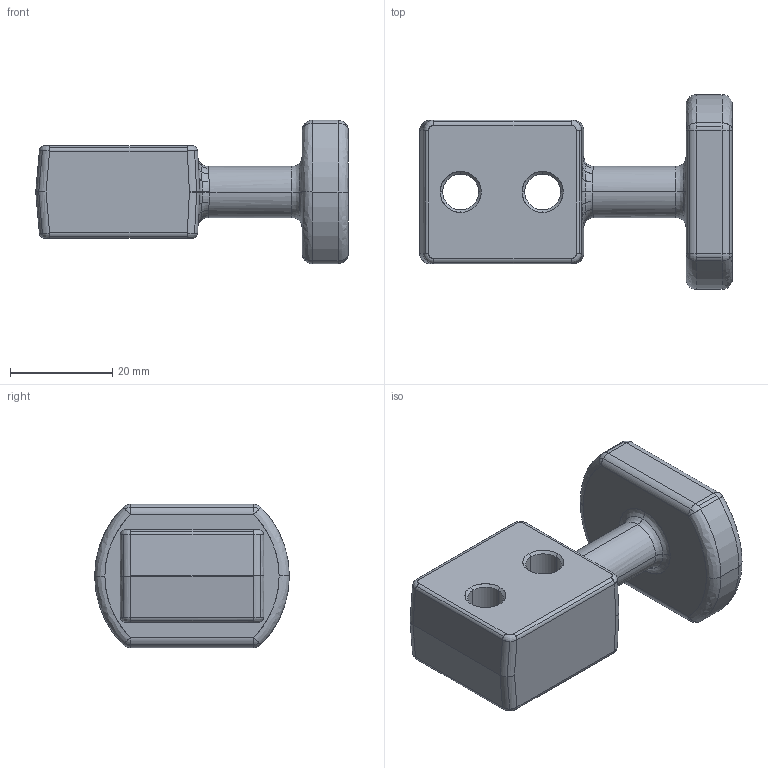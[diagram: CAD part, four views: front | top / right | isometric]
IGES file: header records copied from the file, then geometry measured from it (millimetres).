
Global section: file name: E:\UnigraphicsGraphicData\MISUMI_PRESS-PARTS\IGES\3d_chpl10_03561_r00.igs; native system: NX V5.0; preprocessor: UGS NX IGES V5.0; author: MISUMI; date: 20110105.160232; units: millimetre
Bounding box: 61 x 38 x 28 mm (x, y, z)
Surface area: 7482.9 mm2 (no closed solid volume)
Topology: 0 solids, 0 shells, 172 faces, 893 edges, 883 vertices
Faces by surface type: bspline 172
